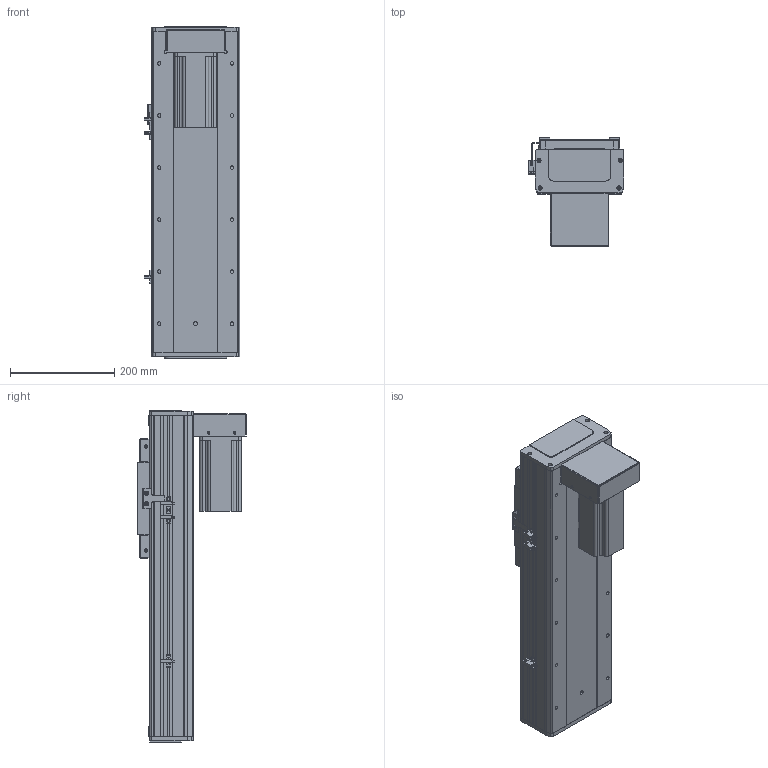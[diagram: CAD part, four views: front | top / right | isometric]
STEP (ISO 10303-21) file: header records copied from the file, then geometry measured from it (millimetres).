
FILE_DESCRIPTION (( 'STEP AP203' ), '1' );
FILE_NAME ('RY170F-L2010-300-BK.SLDASM_300.step', '2021-03-02T08:55:30', ( '盈信电脑' ), ( '东莞市道滘镇水果街19号' ), 'SwSTEP 2.0', 'SolidWorks 2012', '' );
FILE_SCHEMA (( 'CONFIG_CONTROL_DESIGN' ));
Length unit declared in the file: millimetre
Products named in the file (20): RY170狟殏詩湍假蚾輸; RY170F-L2010-300-BK.SLDASM_300; 怢湛750W萇儂ㄗ80遺ㄘ; RY170F-狟殏萇儂假蚾啣(750W); RY170F狟殏萇儂欶; RY170F-詩湍揤踡輸; 侐源滅袉蝶; 滅袉蝶18-24; RY170F-揤踡謫假蚾粣; RY100F-詩湍揤踡謫; RY170F俋离覜茼え; RY170F-綴裔啣; 覜茼ん672; RY170F-佪裝臏賑輸20蹟譫; RY170F-丝杆铝滑块连接板; RY170F-300眻蟀倰第菁釱-BK; 滅袉蝶18-10; RY170F-300眻蟀倰第奻裔啣-BK; RY170F-300眻蟀祥凄詩湍-MK; RY170F-滅鳥奻裔
Assembly tree (25 placements, depth 2):
  RY170F-L2010-300-BK.SLDASM_300
    RY170F-300眻蟀祥凄詩湍-MK
    RY170F-300眻蟀倰第奻裔啣-BK  x2
    RY170F-滅鳥奻裔
    RY170F-300眻蟀倰第菁釱-BK
    RY170F-佪裝臏賑輸20蹟譫
    RY170F-丝杆铝滑块连接板
    滅袉蝶18-10
    RY100F-詩湍揤踡謫
    RY170F-綴裔啣  x2
    覜茼ん672  x3
    RY170F俋离覜茼え
    RY170F-揤踡謫假蚾粣
    RY170F-詩湍揤踡輸  x2
    滅袉蝶18-24
    侐源滅袉蝶  x2
    RY170F-狟殏萇儂假蚾啣(750W)
    怢湛750W萇儂ㄗ80遺ㄘ
    RY170F狟殏萇儂欶
    RY170狟殏詩湍假蚾輸
Bounding box: 183.7 x 208 x 638 mm (x, y, z)
Volume: 4656800.2 mm3; surface area: 1429466.5 mm2
Topology: 25 solids, 25 shells, 1786 faces, 4949 edges, 3156 vertices
Faces by surface type: cylinder 840, plane 762, cone 180, bspline 4
Entity records: 49856 total; most frequent: CARTESIAN_POINT 10008, DIRECTION 8042, ORIENTED_EDGE 7694, EDGE_CURVE 3847, AXIS2_PLACEMENT_3D 2886, VERTEX_POINT 2512, LINE 2270, VECTOR 2270
